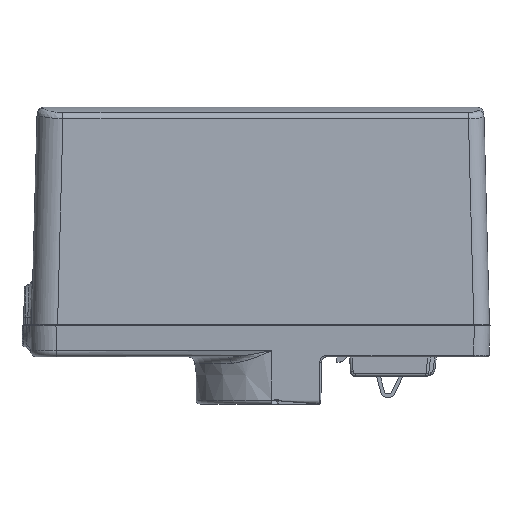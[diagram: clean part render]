
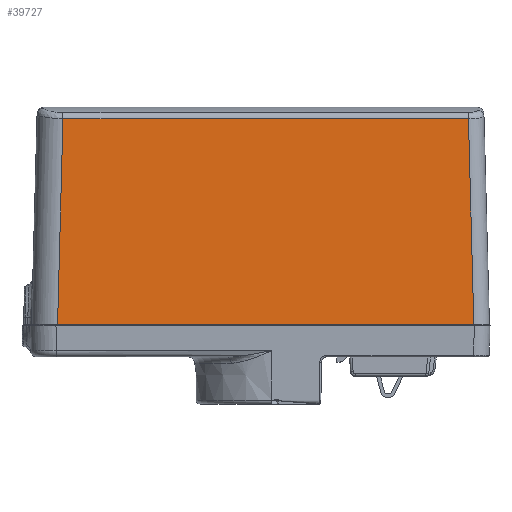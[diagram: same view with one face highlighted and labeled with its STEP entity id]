
A CAD part, left-side view. The second image highlights one B-rep face of the part: STEP entity #39727.
In plain terms, the highlighted planar face has unit normal (-1, 0, 0.026).
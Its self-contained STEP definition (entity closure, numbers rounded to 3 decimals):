
#36328=DIRECTION('',(0.,1.,0.));
#36329=VECTOR('',#36328,77.932);
#36330=CARTESIAN_POINT('',(-13.964,-17.839,
55.348));
#36331=LINE('',#36330,#36329);
#36464=DIRECTION('',(-0.026,0.026,-0.999));
#36465=VECTOR('',#36464,39.576);
#36466=CARTESIAN_POINT('',(-13.964,60.093,
55.348));
#36467=LINE('',#36466,#36465);
#36468=DIRECTION('',(0.026,0.026,0.999));
#36469=VECTOR('',#36468,39.576);
#36470=CARTESIAN_POINT('',(-15.,-18.874,15.8));
#36471=LINE('',#36470,#36469);
#36568=DIRECTION('',(0.,-1.,0.));
#36569=VECTOR('',#36568,80.003);
#36570=CARTESIAN_POINT('',(-15.,61.128,15.8));
#36571=LINE('',#36570,#36569);
#38812=CARTESIAN_POINT('',(-13.964,-17.839,
55.348));
#38814=VERTEX_POINT('',#38812);
#38815=CARTESIAN_POINT('',(-13.964,60.093,
55.348));
#38817=VERTEX_POINT('',#38815);
#38839=CARTESIAN_POINT('',(-15.,-18.874,15.8));
#38840=VERTEX_POINT('',#38839);
#38841=CARTESIAN_POINT('',(-15.,61.128,15.8));
#38842=VERTEX_POINT('',#38841);
#39714=CARTESIAN_POINT('',(-14.482,21.127,
35.574));
#39715=DIRECTION('',(1.,0.,-0.026));
#39716=DIRECTION('',(0.026,0.,1.));
#39717=AXIS2_PLACEMENT_3D('',#39714,#39715,#39716);
#39718=PLANE('',#39717);
#39720=ORIENTED_EDGE('',*,*,#39719,.F.);
#39721=ORIENTED_EDGE('',*,*,#39485,.F.);
#39722=ORIENTED_EDGE('',*,*,#39705,.F.);
#39724=ORIENTED_EDGE('',*,*,#39723,.F.);
#39725=EDGE_LOOP('',(#39720,#39721,#39722,#39724));
#39726=FACE_OUTER_BOUND('',#39725,.F.);
#39727=ADVANCED_FACE('',(#39726),#39718,.F.);
#39485=EDGE_CURVE('',#38814,#38817,#36331,.T.);
#39705=EDGE_CURVE('',#38840,#38814,#36471,.T.);
#39719=EDGE_CURVE('',#38817,#38842,#36467,.T.);
#39723=EDGE_CURVE('',#38842,#38840,#36571,.T.);
